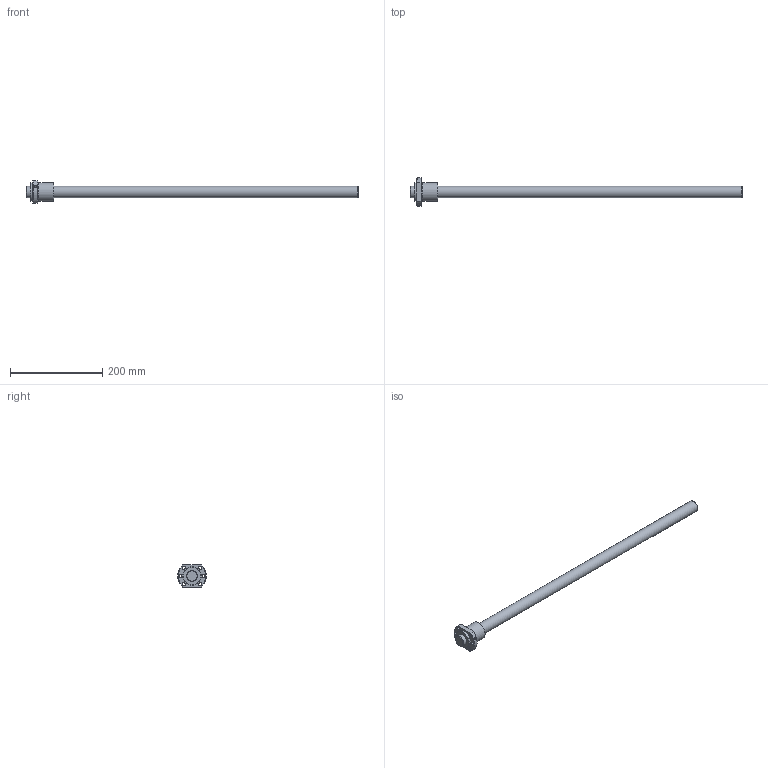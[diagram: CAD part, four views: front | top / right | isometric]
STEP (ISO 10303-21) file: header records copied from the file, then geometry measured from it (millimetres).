
FILE_DESCRIPTION(/* description */ ('STEP AP214'),/* implementation_level */ '2;1');
FILE_NAME(/* name */ 'EBB2505-3RRG0+720LC0-ebb2(650G000)-ebb2',/* time_stamp */ '2023-08-03T12:37:48+02:00',/* author */ ('License CC BY-ND 4.0'),/* organization */ ('CADENAS'),/* preprocessor_version */ 'ST-DEVELOPER v19.3',/* originating_system */ 'PARTsolutions',/* authorisation */ ' ');
FILE_SCHEMA (('AUTOMOTIVE_DESIGN {1 0 10303 214 3 1 1}'));
Length unit declared in the file: millimetre
Products named in the file (3): EBB2505-3RRG0+720LC0-ebb2(650G000)-ebb2; EBB 2505-3RR Nut2; EBB 2505-36500 Shaft2
Assembly tree (2 placements, depth 2):
  EBB2505-3RRG0+720LC0-ebb2(650G000)-ebb2
    EBB 2505-3RR Nut2
    EBB 2505-36500 Shaft2
Bounding box: 720 x 61.8 x 48 mm (x, y, z)
Volume: 402450.5 mm3; surface area: 73662.8 mm2
Topology: 2 solids, 2 shells, 32 faces, 72 edges, 47 vertices
Faces by surface type: cylinder 14, cone 9, plane 9
Full cylindrical faces by diameter (mm): 4.917 x1, 6.6 x6, 25 x2, 37.6 x1, 40 x2
Entity records: 935 total; most frequent: CARTESIAN_POINT 177, DIRECTION 148, ORIENTED_EDGE 106, AXIS2_PLACEMENT_3D 70, EDGE_LOOP 68, FACE_BOUND 68, EDGE_CURVE 53, VERTEX_POINT 45
